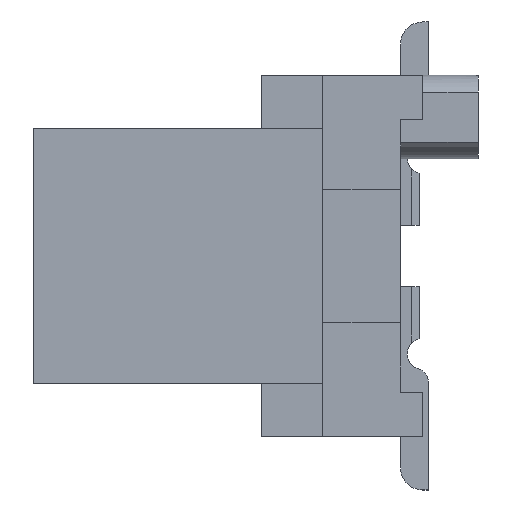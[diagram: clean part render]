
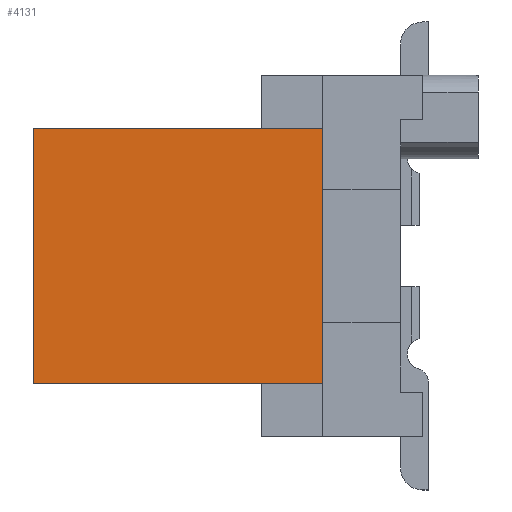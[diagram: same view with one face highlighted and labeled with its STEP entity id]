
A CAD part, left-side view. The second image highlights one B-rep face of the part: STEP entity #4131.
In plain terms, the highlighted planar face has unit normal (-1, 0, 0).
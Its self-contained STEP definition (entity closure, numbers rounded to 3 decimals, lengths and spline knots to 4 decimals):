
#1439 = ORIENTED_EDGE ( 'NONE', *, *, #10815, .F. ) ;
#2536 = VERTEX_POINT ( 'NONE', #38019 ) ;
#4131 = ADVANCED_FACE ( 'NONE', ( #25316 ), #33753, .T. ) ;
#4932 = AXIS2_PLACEMENT_3D ( 'NONE', #21365, #5530, #29549 ) ;
#5530 = DIRECTION ( 'NONE',  ( -1., 0., 0. ) ) ;
#6542 = CARTESIAN_POINT ( 'NONE',  ( 1.944, -1.0792, -0.475 ) ) ;
#7977 = EDGE_LOOP ( 'NONE', ( #1439, #33735, #31589, #51162 ) ) ;
#8728 = EDGE_CURVE ( 'NONE', #28590, #21213, #45569, .T. ) ;
#10815 = EDGE_CURVE ( 'NONE', #2536, #34391, #51049, .T. ) ;
#13174 = EDGE_CURVE ( 'NONE', #21213, #2536, #45273, .T. ) ;
#13388 = CARTESIAN_POINT ( 'NONE',  ( 1.944, -1.0792, -2.775 ) ) ;
#17720 = CARTESIAN_POINT ( 'NONE',  ( 1.944, -1.0792, -2.775 ) ) ;
#18215 = VECTOR ( 'NONE', #35255, 1000. ) ;
#20441 = CARTESIAN_POINT ( 'NONE',  ( 1.944, 1.5208, -2.775 ) ) ;
#21213 = VERTEX_POINT ( 'NONE', #17720 ) ;
#21365 = CARTESIAN_POINT ( 'NONE',  ( 1.944, -0.5292, -2.775 ) ) ;
#24957 = EDGE_CURVE ( 'NONE', #28590, #34391, #47910, .T. ) ;
#25262 = DIRECTION ( 'NONE',  ( 0., 0., -1. ) ) ;
#25316 = FACE_OUTER_BOUND ( 'NONE', #7977, .T. ) ;
#26300 = VECTOR ( 'NONE', #40742, 1000. ) ;
#28590 = VERTEX_POINT ( 'NONE', #6542 ) ;
#28662 = VECTOR ( 'NONE', #25262, 1000. ) ;
#28799 = VECTOR ( 'NONE', #48187, 1000. ) ;
#29549 = DIRECTION ( 'NONE',  ( 0., 0., 1. ) ) ;
#31589 = ORIENTED_EDGE ( 'NONE', *, *, #8728, .F. ) ;
#32088 = CARTESIAN_POINT ( 'NONE',  ( 1.944, -0.5292, -2.775 ) ) ;
#33735 = ORIENTED_EDGE ( 'NONE', *, *, #13174, .F. ) ;
#33753 = PLANE ( 'NONE',  #4932 ) ;
#34391 = VERTEX_POINT ( 'NONE', #41357 ) ;
#35255 = DIRECTION ( 'NONE',  ( 0., 1., 0. ) ) ;
#38019 = CARTESIAN_POINT ( 'NONE',  ( 1.944, 1.5208, -2.775 ) ) ;
#39485 = CARTESIAN_POINT ( 'NONE',  ( 1.944, -0.5292, -0.475 ) ) ;
#40742 = DIRECTION ( 'NONE',  ( 0., 0., 1. ) ) ;
#41357 = CARTESIAN_POINT ( 'NONE',  ( 1.944, 1.5208, -0.475 ) ) ;
#45273 = LINE ( 'NONE', #32088, #28799 ) ;
#45569 = LINE ( 'NONE', #13388, #28662 ) ;
#47910 = LINE ( 'NONE', #39485, #18215 ) ;
#48187 = DIRECTION ( 'NONE',  ( 0., 1., 0. ) ) ;
#51049 = LINE ( 'NONE', #20441, #26300 ) ;
#51162 = ORIENTED_EDGE ( 'NONE', *, *, #24957, .T. ) ;
